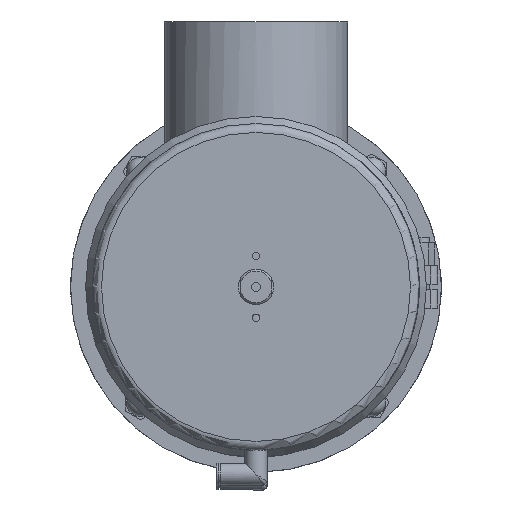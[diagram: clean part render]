
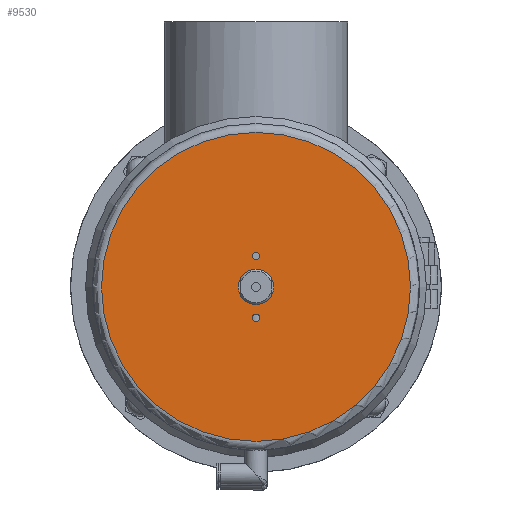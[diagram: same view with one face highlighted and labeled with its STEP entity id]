
A CAD part, front view. The second image highlights one B-rep face of the part: STEP entity #9530.
In plain terms, the highlighted planar face has unit normal (0, -1, 0) as drawn and (0, 1, 0) by its records, which use the part's own axes.
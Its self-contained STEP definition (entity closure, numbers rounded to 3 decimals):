
#728 = CIRCLE ( 'NONE', #3935, 2.1 ) ;
#1056 = DIRECTION ( 'NONE',  ( 0., -1., 0. ) ) ;
#1258 = DIRECTION ( 'NONE',  ( 0., 1., 0. ) ) ;
#1330 = CARTESIAN_POINT ( 'NONE',  ( 0., 298., -10. ) ) ;
#1386 = DIRECTION ( 'NONE',  ( 0., 0., 1. ) ) ;
#3705 = AXIS2_PLACEMENT_3D ( 'NONE', #19684, #8305, #15901 ) ;
#3935 = AXIS2_PLACEMENT_3D ( 'NONE', #6111, #21826, #4835 ) ;
#4810 = ORIENTED_EDGE ( 'NONE', *, *, #23451, .T. ) ;
#4835 = DIRECTION ( 'NONE',  ( 0., 0., 1. ) ) ;
#5275 = EDGE_CURVE ( 'NONE', #5370, #5370, #728, .T. ) ;
#5291 = ORIENTED_EDGE ( 'NONE', *, *, #20549, .F. ) ;
#5370 = VERTEX_POINT ( 'NONE', #13001 ) ;
#6111 = CARTESIAN_POINT ( 'NONE',  ( 0., 298., 17.5 ) ) ;
#6310 = DIRECTION ( 'NONE',  ( 0., -1., 0. ) ) ;
#6819 = CARTESIAN_POINT ( 'NONE',  ( 0., 298., -87.5 ) ) ;
#6883 = CIRCLE ( 'NONE', #10874, 10. ) ;
#7599 = CARTESIAN_POINT ( 'NONE',  ( -92.5, 298., 0. ) ) ;
#8212 = VERTEX_POINT ( 'NONE', #21951 ) ;
#8305 = DIRECTION ( 'NONE',  ( 0., 1., 0. ) ) ;
#9530 = ADVANCED_FACE ( 'NONE', ( #19688, #20961, #18965, #23694 ), #15787, .F. ) ;
#10415 = CARTESIAN_POINT ( 'NONE',  ( 0., 298., 0. ) ) ;
#10874 = AXIS2_PLACEMENT_3D ( 'NONE', #10415, #1056, #20060 ) ;
#13001 = CARTESIAN_POINT ( 'NONE',  ( 0., 298., 19.6 ) ) ;
#13076 = EDGE_LOOP ( 'NONE', ( #4810 ) ) ;
#13929 = DIRECTION ( 'NONE',  ( 0., 0., -1. ) ) ;
#14280 = EDGE_LOOP ( 'NONE', ( #20873 ) ) ;
#15145 = AXIS2_PLACEMENT_3D ( 'NONE', #7599, #6310, #13929 ) ;
#15787 = PLANE ( 'NONE',  #15145 ) ;
#15901 = DIRECTION ( 'NONE',  ( 0., 0., -1. ) ) ;
#17658 = CIRCLE ( 'NONE', #18862, 2.1 ) ;
#18172 = VERTEX_POINT ( 'NONE', #6819 ) ;
#18190 = EDGE_LOOP ( 'NONE', ( #19029 ) ) ;
#18230 = CARTESIAN_POINT ( 'NONE',  ( 0., 298., -17.5 ) ) ;
#18862 = AXIS2_PLACEMENT_3D ( 'NONE', #18230, #1258, #1386 ) ;
#18965 = FACE_OUTER_BOUND ( 'NONE', #13076, .T. ) ;
#19029 = ORIENTED_EDGE ( 'NONE', *, *, #23576, .T. ) ;
#19048 = EDGE_LOOP ( 'NONE', ( #5291 ) ) ;
#19684 = CARTESIAN_POINT ( 'NONE',  ( 0., 298., 0. ) ) ;
#19688 = FACE_BOUND ( 'NONE', #19048, .T. ) ;
#20060 = DIRECTION ( 'NONE',  ( 0., 0., -1. ) ) ;
#20549 = EDGE_CURVE ( 'NONE', #8212, #8212, #17658, .T. ) ;
#20873 = ORIENTED_EDGE ( 'NONE', *, *, #5275, .F. ) ;
#20961 = FACE_BOUND ( 'NONE', #14280, .T. ) ;
#21826 = DIRECTION ( 'NONE',  ( 0., 1., 0. ) ) ;
#21951 = CARTESIAN_POINT ( 'NONE',  ( 0., 298., -15.4 ) ) ;
#23451 = EDGE_CURVE ( 'NONE', #18172, #18172, #24471, .T. ) ;
#23576 = EDGE_CURVE ( 'NONE', #24446, #24446, #6883, .T. ) ;
#23694 = FACE_BOUND ( 'NONE', #18190, .T. ) ;
#24446 = VERTEX_POINT ( 'NONE', #1330 ) ;
#24471 = CIRCLE ( 'NONE', #3705, 87.5 ) ;
